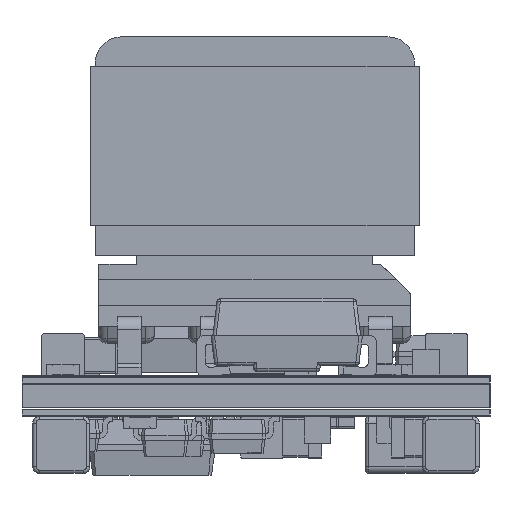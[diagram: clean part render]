
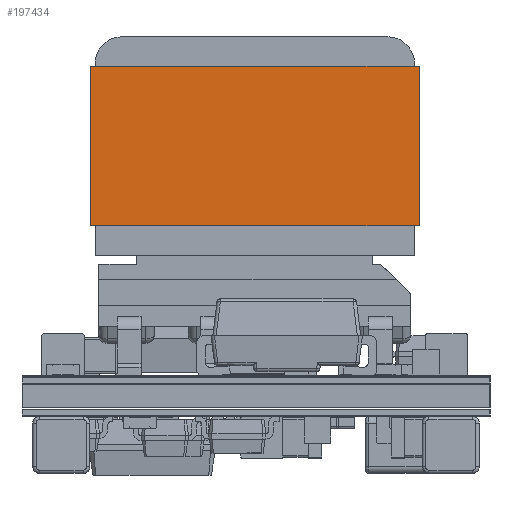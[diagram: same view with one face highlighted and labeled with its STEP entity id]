
A CAD part, left-side view. The second image highlights one B-rep face of the part: STEP entity #197434.
In plain terms, the highlighted face is a extrusion surface.
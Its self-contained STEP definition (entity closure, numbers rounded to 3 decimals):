
#197434 = ADVANCED_FACE('',(#197435),#197469,.T.);
#197435 = FACE_BOUND('',#197436,.T.);
#197436 = EDGE_LOOP('',(#197437,#197447,#197455,#197463));
#197437 = ORIENTED_EDGE('',*,*,#197438,.T.);
#197438 = EDGE_CURVE('',#197439,#197441,#197443,.T.);
#197439 = VERTEX_POINT('',#197440);
#197440 = CARTESIAN_POINT('',(3.936,0.939,
    9.213));
#197441 = VERTEX_POINT('',#197442);
#197442 = CARTESIAN_POINT('',(3.936,10.719,
    9.213));
#197443 = LINE('',#197444,#197445);
#197444 = CARTESIAN_POINT('',(3.936,0.939,
    9.213));
#197445 = VECTOR('',#197446,1.);
#197446 = DIRECTION('',(0.,1.,0.));
#197447 = ORIENTED_EDGE('',*,*,#197448,.T.);
#197448 = EDGE_CURVE('',#197441,#197449,#197451,.T.);
#197449 = VERTEX_POINT('',#197450);
#197450 = CARTESIAN_POINT('',(3.936,10.719,
    4.463));
#197451 = LINE('',#197452,#197453);
#197452 = CARTESIAN_POINT('',(3.936,10.719,
    9.213));
#197453 = VECTOR('',#197454,1.);
#197454 = DIRECTION('',(0.,0.,-1.));
#197455 = ORIENTED_EDGE('',*,*,#197456,.T.);
#197456 = EDGE_CURVE('',#197449,#197457,#197459,.T.);
#197457 = VERTEX_POINT('',#197458);
#197458 = CARTESIAN_POINT('',(3.936,0.939,
    4.463));
#197459 = LINE('',#197460,#197461);
#197460 = CARTESIAN_POINT('',(3.936,10.719,
    4.463));
#197461 = VECTOR('',#197462,1.);
#197462 = DIRECTION('',(0.,-1.,0.));
#197463 = ORIENTED_EDGE('',*,*,#197464,.T.);
#197464 = EDGE_CURVE('',#197457,#197439,#197465,.T.);
#197465 = LINE('',#197466,#197467);
#197466 = CARTESIAN_POINT('',(3.936,0.939,
    4.463));
#197467 = VECTOR('',#197468,1.);
#197468 = DIRECTION('',(0.,0.,1.));
#197469 = SURFACE_OF_LINEAR_EXTRUSION('',#197470,#197474);
#197470 = LINE('',#197471,#197472);
#197471 = CARTESIAN_POINT('',(3.936,0.939,
    9.213));
#197472 = VECTOR('',#197473,1.);
#197473 = DIRECTION('',(0.,1.,0.));
#197474 = VECTOR('',#197475,1.);
#197475 = DIRECTION('',(0.,0.,-1.));
